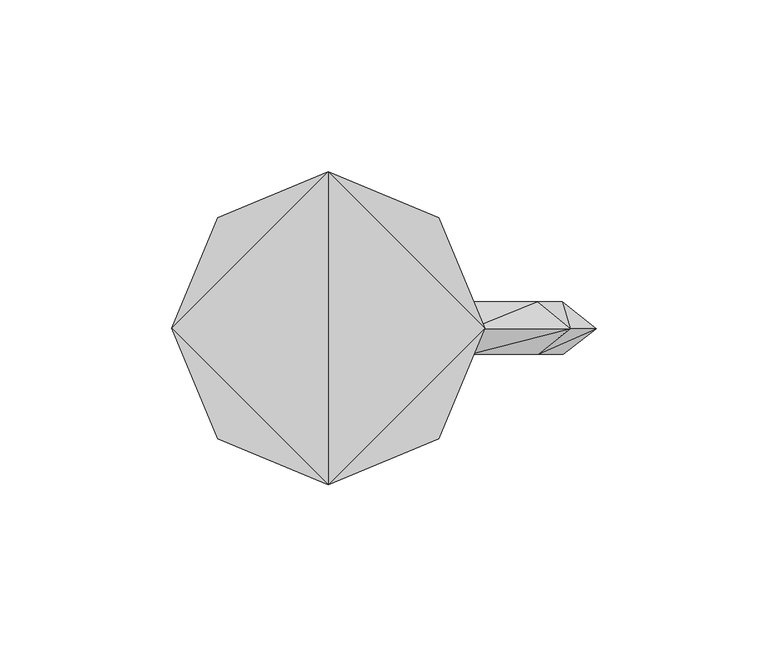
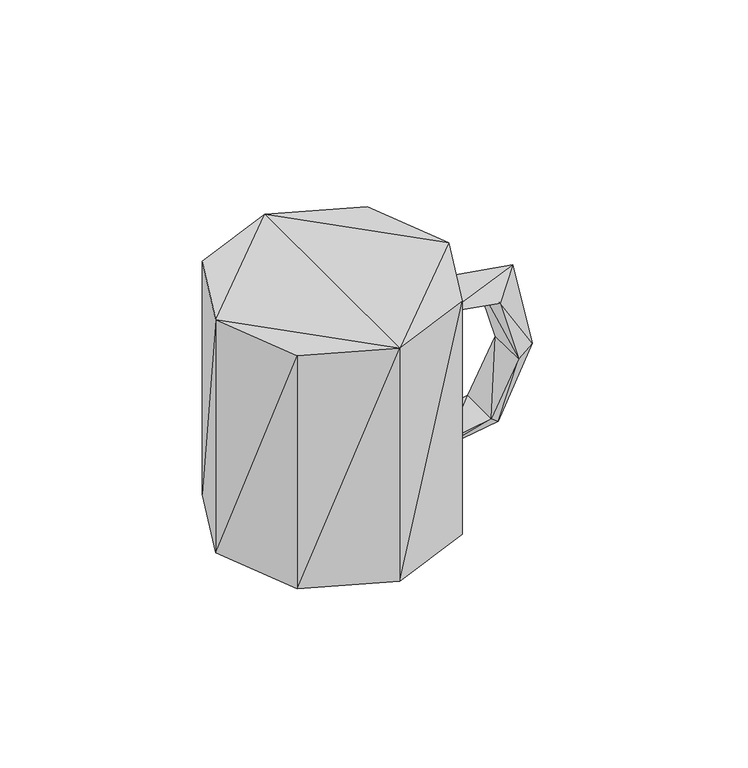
"""IFC4 building model written with IfcOpenShell, lengths in millimetres: geographic element geometry, Enscape AssetDefinition - Coffee Mug : Enscape AssetDefinition - Coffee Mug."""

from ifc_helpers import new_model, si_unit, origin, place, context, project, spatial, faceted_brep, source, transform, mapped, element, save


def geographic_element_477b9549(model_context):
    return source(origin(), model_context, "Body", "Brep", [
        faceted_brep([(-45.4642512, 0.0, 0.0), (0.0, -45.4642512, 0.0), (-32.1474262, -32.1474262, 0.0), (45.4642512, 0.0, 0.0), (32.1474262, -32.1474262, 0.0), (0.0, -45.4642512, 95.9636942), (32.1474262, -32.1474262, 95.9636942), (-32.1474262, -32.1474262, 95.9636942), (-45.4642512, 0.0, 95.9636942), (0.0, 45.4642512, 95.9636942), (45.4642512, 0.0, 95.9636942), (32.1474262, 32.1474262, 95.9636942), (32.1474262, 32.1474262, 0.0), (0.0, 45.4642512, 0.0), (-32.1474262, 32.1474262, 95.9636942), (-32.1474262, 32.1474262, 0.0)], [[[0, 1, 2]], [[3, 1, 0]], [[3, 4, 1]], [[5, 2, 1]], [[6, 1, 4]], [[1, 6, 5]], [[7, 0, 2]], [[2, 5, 7]], [[5, 8, 7]], [[5, 9, 8]], [[5, 10, 9]], [[5, 6, 10]], [[4, 10, 6]], [[10, 4, 3]], [[3, 11, 10]], [[9, 10, 11]], [[9, 12, 13]], [[12, 9, 11]], [[13, 14, 9]], [[8, 9, 14]], [[11, 3, 12]], [[3, 13, 12]], [[13, 0, 15]], [[3, 0, 13]], [[14, 13, 15]], [[15, 8, 14]], [[8, 15, 0]], [[0, 7, 8]]]),
        faceted_brep([(41.3503535, -0.1555424, 82.9330236), (60.7542694, 7.7641588, 69.6411282), (41.1469527, 7.7641588, 73.1687471), (70.3261122, -0.1555424, 78.1750157), (61.07134, -7.5208745, 70.024997), (67.9491013, 7.7641588, 44.719439), (68.3459342, -7.5208745, 44.6725823), (41.2177444, -7.5208745, 73.608458), (77.817075, -0.1555424, 43.3225483), (57.5187877, -7.5208745, 23.7591043), (64.6777302, -0.1555424, 15.7556497), (57.2605468, 7.7641588, 24.1579302), (41.1668904, 7.7641588, 21.4738268), (41.3513482, -0.1555424, 12.1422792), (41.2356928, -7.5208745, 21.0331231)], [[[0, 1, 2]], [[1, 0, 3]], [[4, 2, 1]], [[3, 5, 1]], [[6, 1, 5]], [[1, 6, 4]], [[2, 4, 7]], [[2, 7, 0]], [[7, 3, 0]], [[3, 7, 4]], [[5, 3, 8]], [[4, 8, 3]], [[8, 4, 6]], [[5, 9, 6]], [[6, 10, 8]], [[10, 6, 9]], [[8, 11, 5]], [[9, 5, 11]], [[11, 8, 10]], [[10, 12, 11]], [[12, 10, 13]], [[9, 13, 10]], [[11, 14, 9]], [[13, 9, 14]], [[14, 11, 12]], [[14, 12, 13]]]),
    ])


if __name__ == "__main__":
    model = new_model("IFC4")
    model_context = context("Model", 3, world=origin())
    ifc_project = project(units=[si_unit("LENGTHUNIT", "METRE", prefix="MILLI")], contexts=[model_context])
    site = spatial("IfcSite", under=ifc_project)
    building = spatial("IfcBuilding", under=site)
    placement = place(None, origin())
    geographic_element_shape = geographic_element_477b9549(model_context)
    element("IfcGeographicElement", 1, ObjectType="Enscape AssetDefinition - Coffee Mug : Enscape AssetDefinition - Coffee Mug", at=placement, inside=building, context=model_context, shape_type="MappedRepresentation", body=[
        mapped(geographic_element_shape, transform((0.0, 0.0, 0.0), x_axis=(1.0, 0.0, 0.0), y_axis=(0.0, 1.0, 0.0), z_axis=(0.0, 0.0, 1.0))),
    ])
    save(model, "model.ifc")
